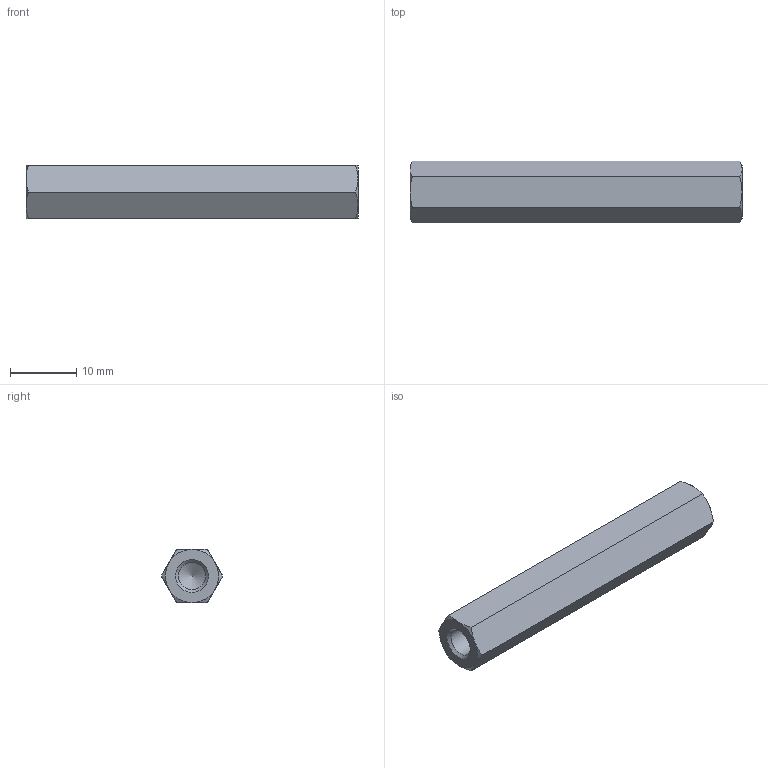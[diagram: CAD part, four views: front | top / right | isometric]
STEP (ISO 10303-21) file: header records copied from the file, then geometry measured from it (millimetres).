
FILE_DESCRIPTION( ( 'STEP AP203' ), '1' );
FILE_NAME( 'C:/Temp/Ganter_Step_05_03_2020/data/3_2/gn6220/gn6220_ni/Stainless Steel-Spacer GN 6220-NI-M5-50-A.stp', '2020-03-13T05:43:01', ( 'License CC BY-ND 4.0' ), ( 'CADENAS' ), ' ', 'PARTsolutions', ' ' );
FILE_SCHEMA( ( 'CONFIG_CONTROL_DESIGN' ) );
Length unit declared in the file: millimetre
Products named in the file (1): _Stainless Steel-Spacer GN 6220-NI-M5-50-A
Bounding box: 50 x 9.24 x 8 mm (x, y, z)
Volume: 2375.3 mm3; surface area: 1858.5 mm2
Topology: 1 solids, 1 shells, 26 faces, 57 edges, 33 vertices
Faces by surface type: cone 16, plane 8, cylinder 2
Full cylindrical faces by diameter (mm): 4.134 x2
Entity records: 750 total; most frequent: CARTESIAN_POINT 211, DIRECTION 96, ORIENTED_EDGE 96, EDGE_CURVE 48, AXIS2_PLACEMENT_3D 45, EDGE_LOOP 32, VERTEX_POINT 32, FACE_OUTER_BOUND 28
